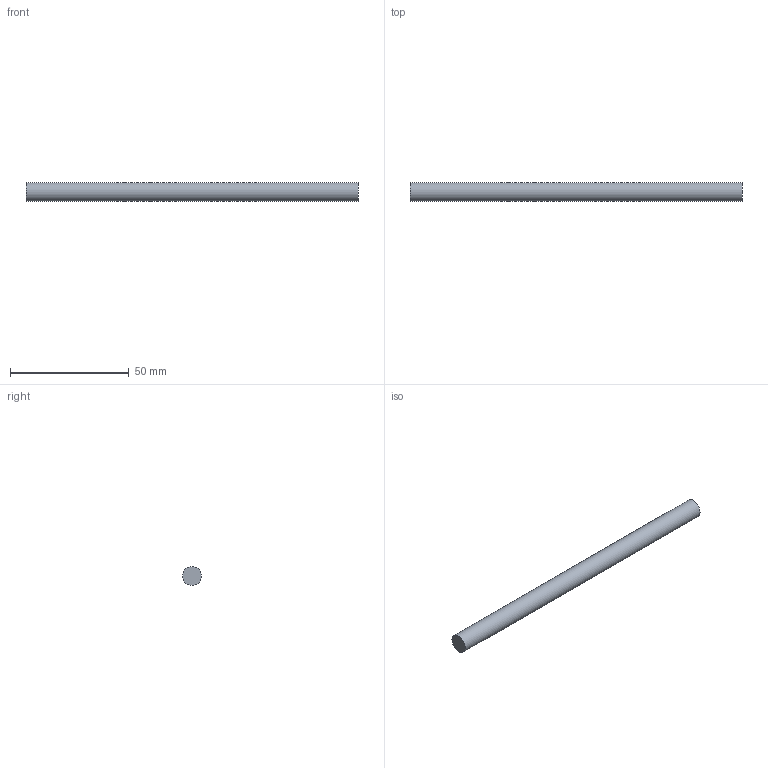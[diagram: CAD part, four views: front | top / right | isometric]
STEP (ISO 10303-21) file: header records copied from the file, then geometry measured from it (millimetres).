
FILE_DESCRIPTION(('FreeCAD Model'),'2;1');
FILE_NAME('Open CASCADE Shape Model','2026-11-20T09:06:14',('FreeCAD'),( 'FreeCAD'),'Open CASCADE STEP processor 7.8','FreeCAD','Unknown');
FILE_SCHEMA(('AUTOMOTIVE_DESIGN { 1 0 10303 214 1 1 1 1 }'));
Length unit declared in the file: millimetre
Products named in the file (1): Open CASCADE STEP translator 7.8 1
Bounding box: 140 x 8 x 8 mm (x, y, z)
Volume: 7037.2 mm3; surface area: 3619.1 mm2
Topology: 1 solids, 1 shells, 3 faces, 3 edges, 2 vertices
Faces by surface type: plane 2, cylinder 1
Full cylindrical faces by diameter (mm): 8 x1
Entity records: 69 total; most frequent: DIRECTION 13, CARTESIAN_POINT 9, AXIS2_PLACEMENT_3D 6, ORIENTED_EDGE 6, ADVANCED_FACE 3, FACE_BOUND 3, EDGE_LOOP 3, EDGE_CURVE 3
